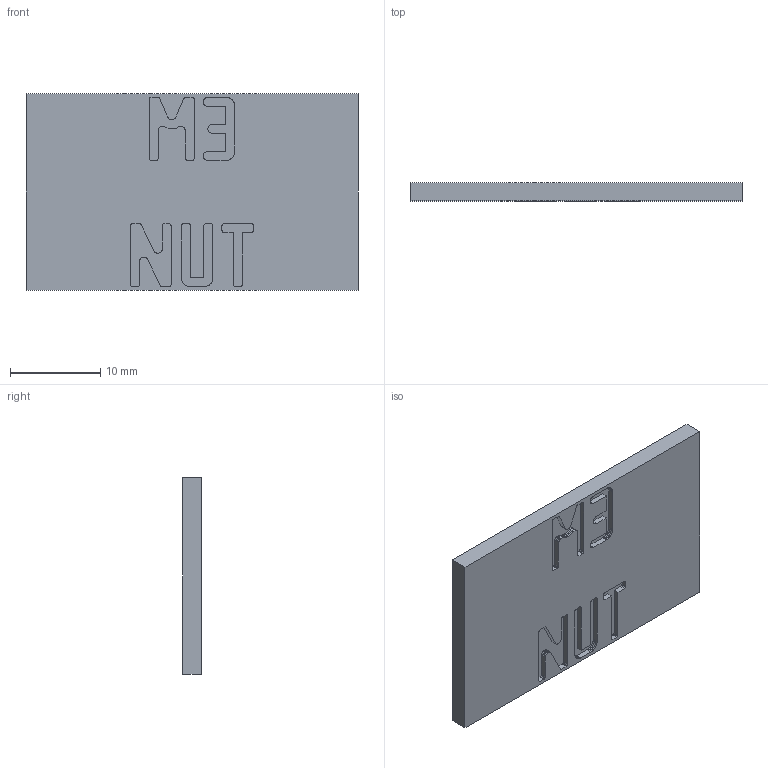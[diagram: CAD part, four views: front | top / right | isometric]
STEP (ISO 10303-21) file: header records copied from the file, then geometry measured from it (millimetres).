
FILE_DESCRIPTION(('Open CASCADE Model'),'2;1');
FILE_NAME('Open CASCADE Shape Model','2026-11-03T17:10:24',('Author'),( 'Open CASCADE'),'Open CASCADE STEP processor 8.0','build123d', 'Unknown');
FILE_SCHEMA(('AUTOMOTIVE_DESIGN { 1 0 10303 214 1 1 1 1 }'));
Length unit declared in the file: millimetre
Products named in the file (2): =>[0:1:1:2]; COMPOUND
Assembly tree (1 placements, depth 2):
  =>[0:1:1:2]
    COMPOUND
Bounding box: 36.8 x 2 x 21.8 mm (x, y, z)
Volume: 1557.4 mm3; surface area: 1926.5 mm2
Topology: 1 solids, 1 shells, 461 faces, 1362 edges, 908 vertices
Faces by surface type: plane 461
Entity records: 32790 total; most frequent: CARTESIAN_POINT 5457, DIRECTION 5012, LINE 4086, VECTOR 4086, ORIENTED_EDGE 2724, PCURVE 2724, DEFINITIONAL_REPRESENTATION 2724, EDGE_CURVE 1362
